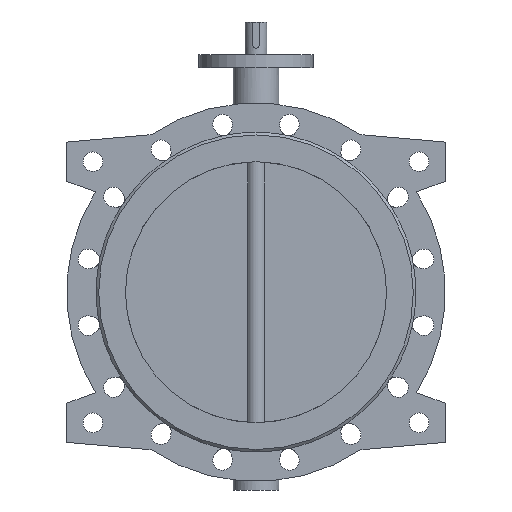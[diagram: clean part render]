
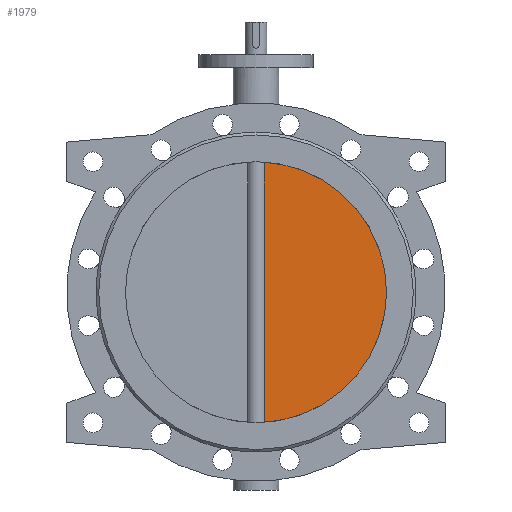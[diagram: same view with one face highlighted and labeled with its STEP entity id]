
A CAD part, front view. The second image highlights one B-rep face of the part: STEP entity #1979.
In plain terms, the highlighted planar face has unit normal (0, -1, 0).
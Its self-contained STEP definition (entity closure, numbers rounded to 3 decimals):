
#1979=ADVANCED_FACE('',(#3735),#3737,.T.);
#3735=FACE_BOUND('',#3736,.T.);
#3736=EDGE_LOOP('',(#5199,#5200));
#3737=PLANE('',#3738);
#3738=AXIS2_PLACEMENT_3D('',#3739,#3740,#3741);
#3739=CARTESIAN_POINT('',(0.,-7.5,0.));
#3740=DIRECTION('',(0.,-1.,0.));
#3741=DIRECTION('',(1.,0.,0.));
#5199=ORIENTED_EDGE('',*,*,#5929,.T.);
#5200=ORIENTED_EDGE('',*,*,#5935,.T.);
#5929=EDGE_CURVE('',#7117,#7118,#7119,.F.);
#5935=EDGE_CURVE('',#7118,#7117,#7129,.T.);
#7117=VERTEX_POINT('',#11877);
#7118=VERTEX_POINT('',#11878);
#7119=CIRCLE('',#11879,200.);
#7129=LINE('',#12100,#12101);
#11877=CARTESIAN_POINT('',(12.99,-7.5,-199.578));
#11878=CARTESIAN_POINT('',(12.99,-7.5,199.578));
#11879=AXIS2_PLACEMENT_3D('',#11880,#11881,#11882);
#11880=CARTESIAN_POINT('',(0.,-7.5,0.));
#11881=DIRECTION('',(0.,1.,0.));
#11882=DIRECTION('',(0.065,0.,0.998));
#12100=CARTESIAN_POINT('',(12.99,-7.5,199.578));
#12101=VECTOR('',#12102,1.);
#12102=DIRECTION('',(0.,0.,-1.));
